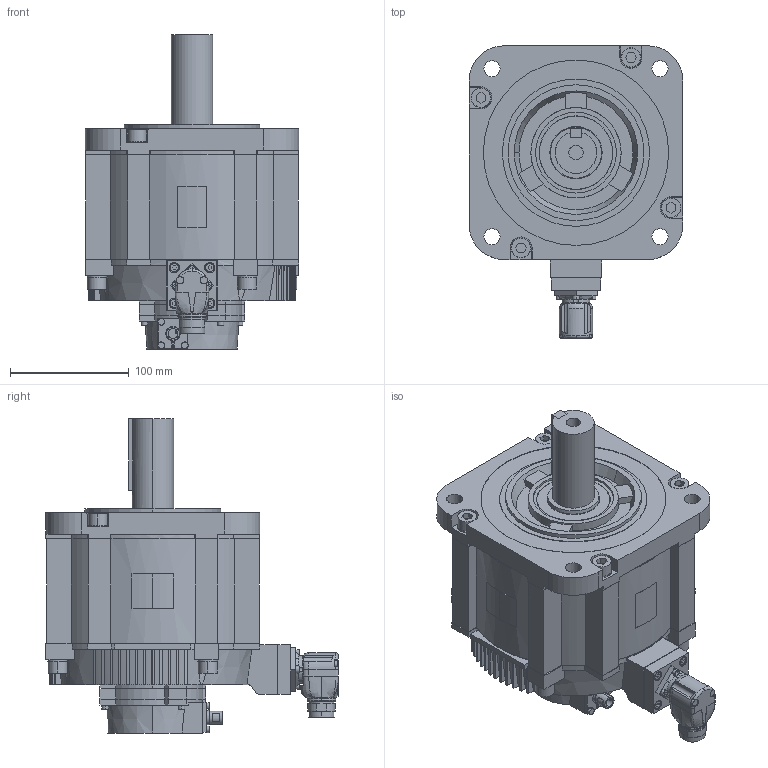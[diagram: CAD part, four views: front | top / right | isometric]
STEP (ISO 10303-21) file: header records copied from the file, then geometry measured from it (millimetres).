
FILE_DESCRIPTION (( 'STEP AP214' ), '1' );
FILE_NAME ('sgm7g_44d_f6f.STEP', '2016-08-04T01:01:13', ( '匠エンジニアリング山之内' ), ( 'TAKUMI-Engniaring' ), 'SwSTEP 2.0', 'SolidWorks 2006303', '' );
FILE_SCHEMA (( 'AUTOMOTIVE_DESIGN' ));
Length unit declared in the file: millimetre
Products named in the file (4): sgm7g_44d_f6f_key_蹬怮椔; sgm7g_44d_f6f_base_蹬怮椔; sgm7g_44d_f6f; sgm7g_44d_f6f_connector
Assembly tree (3 placements, depth 2):
  sgm7g_44d_f6f
    sgm7g_44d_f6f_base_蹬怮椔
    sgm7g_44d_f6f_key_蹬怮椔
    sgm7g_44d_f6f_connector
Bounding box: 180 x 245.9 x 264.6 mm (x, y, z)
Volume: 4175910.1 mm3; surface area: 240095.9 mm2
Topology: 3 solids, 3 shells, 970 faces, 2540 edges, 1671 vertices
Faces by surface type: plane 602, cylinder 281, cone 60, bspline 18, torus 9
Entity records: 42189 total; most frequent: CARTESIAN_POINT 7116, ORIENTED_EDGE 5076, DIRECTION 5074, EDGE_CURVE 2538, AXIS2_PLACEMENT_3D 1745, VERTEX_POINT 1671, VECTOR 1584, LINE 1584
